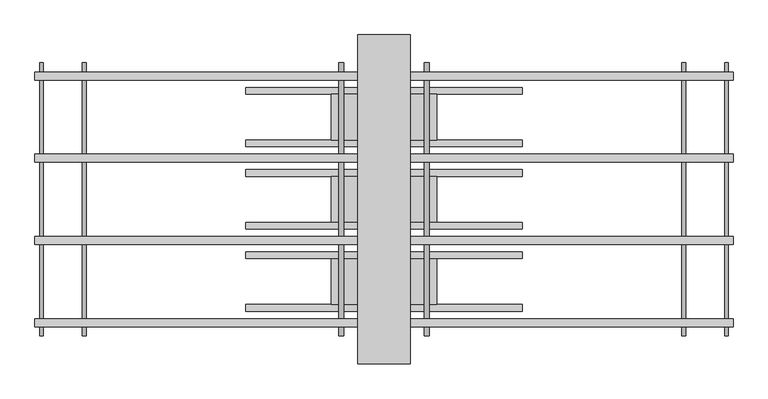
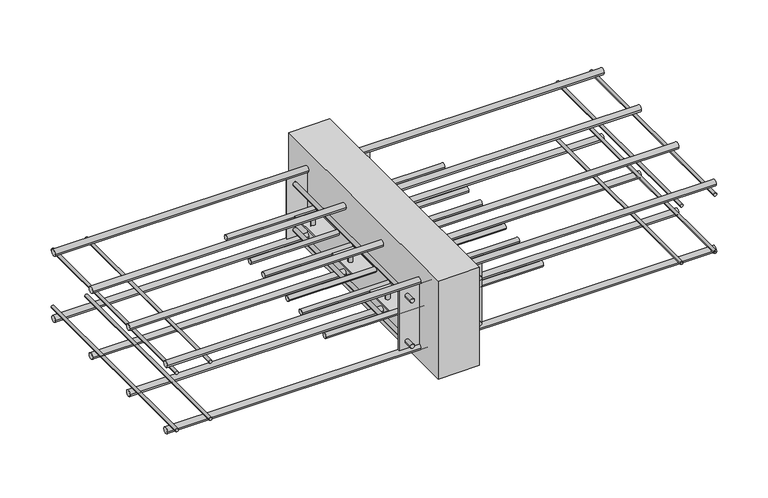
"""IFC4 building model written with IfcOpenShell, lengths in millimetres: fastener geometry, ACINOXplus_Typenreihe_M : MC+ S3."""

from ifc_helpers import new_model, si_unit, point, frame, frame_2d, origin, place, context, project, spatial, polyline, circle_curve, trimmed, segment, composite_curve, outline, extrude, source, transform, mapped, element, save
from ifc_brep_helpers import plane_surface, cylinder_surface, advanced_brep


def fastener_2e8eba31(model_context):
    return source(origin(), model_context, "Body", "SolidModel", [
        extrude(outline(composite_curve([segment(trimmed(circle_curve(frame_2d((-40.0, -103.5)), 5.0), [point((-45.0, -103.5))], [point((-35.0, -103.5))], False, "CARTESIAN"), True, "CONTINUOUS"), segment(trimmed(circle_curve(frame_2d((-40.0, -103.5)), 5.0), [point((-35.0, -103.5))], [point((-45.0, -103.5))], False, "CARTESIAN"), True, "CONTINUOUS")], self_intersect=False)), frame((-210.0, 0.0, 0.0), z_axis=(1.0, 0.0, 0.0), x_axis=(0.0, 1.0, 0.0)), (0.0, 0.0, 1.0), 420.0),
        extrude(outline(composite_curve([segment(trimmed(circle_curve(frame_2d((40.0, -103.5)), 5.0), [point((35.0, -103.5))], [point((45.0, -103.5))], False, "CARTESIAN"), True, "CONTINUOUS"), segment(trimmed(circle_curve(frame_2d((40.0, -103.5)), 5.0), [point((45.0, -103.5))], [point((35.0, -103.5))], False, "CARTESIAN"), True, "CONTINUOUS")], self_intersect=False)), frame((-210.0, 0.0, 0.0), z_axis=(1.0, 0.0, 0.0), x_axis=(0.0, 1.0, 0.0)), (0.0, 0.0, 1.0), 420.0),
        advanced_brep(
        [(-69.0, 0.0, -88.5), (-61.0, 0.0, -88.5), (61.0, 0.0, -88.5), (69.0, 0.0, -88.5), (-69.0, 0.0, -118.5), (-61.0, 0.0, -118.5), (61.0, 0.0, -118.5), (69.0, 0.0, -118.5), (-69.0, 0.0, -102.0), (-61.0, 0.0, -102.0), (-61.0, 0.0, -105.0), (-69.0, 0.0, -105.0), (61.0, 0.0, -102.0), (69.0, 0.0, -102.0), (69.0, 0.0, -105.0), (61.0, 0.0, -105.0), (80.0, 35.0, -102.0), (-80.0, 35.0, -102.0), (-80.0, -35.0, -102.0), (80.0, -35.0, -102.0), (80.0, 35.0, -105.0), (80.0, -35.0, -105.0), (-80.0, -35.0, -105.0), (-80.0, 35.0, -105.0)],
        [
            (0, 1, circle_curve(frame((-65.0, 0.0, -88.5), z_axis=(0.0, 0.0, 1.0), x_axis=(1.0, 0.0, 0.0)), 4.0)),
            (1, 0, circle_curve(frame((-65.0, 0.0, -88.5), z_axis=(0.0, 0.0, 1.0), x_axis=(1.0, 0.0, 0.0)), 4.0)),
            (2, 3, circle_curve(frame((65.0, 0.0, -88.5), z_axis=(0.0, 0.0, 1.0), x_axis=(1.0, 0.0, 0.0)), 4.0)),
            (3, 2, circle_curve(frame((65.0, 0.0, -88.5), z_axis=(0.0, 0.0, 1.0), x_axis=(1.0, 0.0, 0.0)), 4.0)),
            (4, 5, circle_curve(frame((-65.0, 0.0, -118.5), z_axis=(0.0, 0.0, -1.0), x_axis=(1.0, 0.0, 0.0)), 4.0)),
            (5, 4, circle_curve(frame((-65.0, 0.0, -118.5), z_axis=(0.0, 0.0, -1.0), x_axis=(1.0, 0.0, 0.0)), 4.0)),
            (6, 7, circle_curve(frame((65.0, 0.0, -118.5), z_axis=(0.0, 0.0, -1.0), x_axis=(1.0, 0.0, 0.0)), 4.0)),
            (7, 6, circle_curve(frame((65.0, 0.0, -118.5), z_axis=(0.0, 0.0, -1.0), x_axis=(1.0, 0.0, 0.0)), 4.0)),
            (0, 8),
            (8, 9, circle_curve(frame((-65.0, 0.0, -102.0), z_axis=(0.0, 0.0, 1.0), x_axis=(1.0, 0.0, 0.0)), 4.0)),
            (9, 1),
            (5, 10),
            (10, 11, circle_curve(frame((-65.0, 0.0, -105.0), z_axis=(0.0, 0.0, -1.0), x_axis=(1.0, 0.0, 0.0)), 4.0)),
            (11, 4),
            (9, 8, circle_curve(frame((-65.0, 0.0, -102.0), z_axis=(0.0, 0.0, 1.0), x_axis=(1.0, 0.0, 0.0)), 4.0)),
            (11, 10, circle_curve(frame((-65.0, 0.0, -105.0), z_axis=(0.0, 0.0, -1.0), x_axis=(1.0, 0.0, 0.0)), 4.0)),
            (2, 12),
            (12, 13, circle_curve(frame((65.0, 0.0, -102.0), z_axis=(0.0, 0.0, 1.0), x_axis=(1.0, 0.0, 0.0)), 4.0)),
            (13, 3),
            (7, 14),
            (14, 15, circle_curve(frame((65.0, 0.0, -105.0), z_axis=(0.0, 0.0, -1.0), x_axis=(1.0, 0.0, 0.0)), 4.0)),
            (15, 6),
            (13, 12, circle_curve(frame((65.0, 0.0, -102.0), z_axis=(0.0, 0.0, 1.0), x_axis=(1.0, 0.0, 0.0)), 4.0)),
            (15, 14, circle_curve(frame((65.0, 0.0, -105.0), z_axis=(0.0, 0.0, -1.0), x_axis=(1.0, 0.0, 0.0)), 4.0)),
            (16, 17),
            (17, 18),
            (18, 19),
            (19, 16),
            (20, 21),
            (21, 22),
            (22, 23),
            (23, 20),
            (16, 20),
            (23, 17),
            (22, 18),
            (21, 19),
        ],
        [
            plane_surface(frame((-61.0, 0.0, -88.5), z_axis=(0.0, 0.0, 1.0), x_axis=(0.0, 1.0, 0.0))),
            plane_surface(frame((-61.0, 0.0, -118.5), z_axis=(0.0, 0.0, -1.0), x_axis=(0.0, -1.0, 0.0))),
            cylinder_surface(frame((-65.0, 0.0, -118.5), z_axis=(0.0, 0.0, 1.0), x_axis=(1.0, 0.0, 0.0)), 4.0),
            cylinder_surface(frame((65.0, 0.0, -103.5), z_axis=(0.0, 0.0, 1.0), x_axis=(1.0, 0.0, 0.0)), 4.0),
            plane_surface(frame((-80.0, 35.0, -102.0), z_axis=(0.0, 0.0, 1.0), x_axis=(-1.0, 0.0, 0.0))),
            plane_surface(frame((-80.0, 35.0, -105.0), z_axis=(0.0, 0.0, -1.0), x_axis=(1.0, 0.0, 0.0))),
            plane_surface(frame((80.0, 35.0, -102.0), z_axis=(0.0, 1.0, 0.0), x_axis=(0.0, 0.0, -1.0))),
            plane_surface(frame((-80.0, 35.0, -102.0), z_axis=(-1.0, 0.0, 0.0), x_axis=(0.0, 0.0, -1.0))),
            plane_surface(frame((-80.0, -35.0, -102.0), z_axis=(0.0, -1.0, 0.0), x_axis=(0.0, 0.0, -1.0))),
            plane_surface(frame((80.0, -35.0, -102.0), z_axis=(1.0, 0.0, 0.0), x_axis=(0.0, 0.0, -1.0))),
        ],
        [
            (0, [[1, 2]]),
            (0, [[3, 4]]),
            (1, [[5, 6]]),
            (1, [[7, 8]]),
            (2, [[-1, 9, 10, 11]]),
            (2, [[-6, 12, 13, 14]]),
            (2, [[-2, -11, 15, -9]]),
            (2, [[-5, -14, 16, -12]]),
            (3, [[-3, 17, 18, 19]]),
            (3, [[-8, 20, 21, 22]]),
            (3, [[-4, -19, 23, -17]]),
            (3, [[-7, -22, 24, -20]]),
            (4, [[25, 26, 27, 28], [-10, -15], [-18, -23]]),
            (5, [[29, 30, 31, 32], [-13, -16], [-21, -24]]),
            (6, [[-25, 33, -32, 34]]),
            (7, [[-26, -34, -31, 35]]),
            (8, [[-27, -35, -30, 36]]),
            (9, [[-28, -36, -29, -33]]),
        ],
    ),
        extrude(outline(composite_curve([segment(trimmed(circle_curve(frame_2d((-165.0, -103.5)), 5.0), [point((-170.0, -103.5))], [point((-160.0, -103.5))], False, "CARTESIAN"), True, "CONTINUOUS"), segment(trimmed(circle_curve(frame_2d((-165.0, -103.5)), 5.0), [point((-160.0, -103.5))], [point((-170.0, -103.5))], False, "CARTESIAN"), True, "CONTINUOUS")], self_intersect=False)), frame((-210.0, 0.0, 0.0), z_axis=(1.0, 0.0, 0.0), x_axis=(0.0, 1.0, 0.0)), (0.0, 0.0, 1.0), 420.0),
        extrude(outline(composite_curve([segment(trimmed(circle_curve(frame_2d((-85.0, -103.5)), 5.0), [point((-90.0, -103.5))], [point((-80.0, -103.5))], False, "CARTESIAN"), True, "CONTINUOUS"), segment(trimmed(circle_curve(frame_2d((-85.0, -103.5)), 5.0), [point((-80.0, -103.5))], [point((-90.0, -103.5))], False, "CARTESIAN"), True, "CONTINUOUS")], self_intersect=False)), frame((-210.0, 0.0, 0.0), z_axis=(1.0, 0.0, 0.0), x_axis=(0.0, 1.0, 0.0)), (0.0, 0.0, 1.0), 420.0),
        advanced_brep(
        [(-69.0, -125.0, -88.5), (-61.0, -125.0, -88.5), (61.0, -125.0, -88.5), (69.0, -125.0, -88.5), (-69.0, -125.0, -118.5), (-61.0, -125.0, -118.5), (61.0, -125.0, -118.5), (69.0, -125.0, -118.5), (-69.0, -125.0, -102.0), (-61.0, -125.0, -102.0), (-61.0, -125.0, -105.0), (-69.0, -125.0, -105.0), (61.0, -125.0, -102.0), (69.0, -125.0, -102.0), (69.0, -125.0, -105.0), (61.0, -125.0, -105.0), (80.0, -90.0, -102.0), (-80.0, -90.0, -102.0), (-80.0, -160.0, -102.0), (80.0, -160.0, -102.0), (80.0, -90.0, -105.0), (80.0, -160.0, -105.0), (-80.0, -160.0, -105.0), (-80.0, -90.0, -105.0)],
        [
            (0, 1, circle_curve(frame((-65.0, -125.0, -88.5), z_axis=(0.0, 0.0, 1.0), x_axis=(1.0, 0.0, 0.0)), 4.0)),
            (1, 0, circle_curve(frame((-65.0, -125.0, -88.5), z_axis=(0.0, 0.0, 1.0), x_axis=(1.0, 0.0, 0.0)), 4.0)),
            (2, 3, circle_curve(frame((65.0, -125.0, -88.5), z_axis=(0.0, 0.0, 1.0), x_axis=(1.0, 0.0, 0.0)), 4.0)),
            (3, 2, circle_curve(frame((65.0, -125.0, -88.5), z_axis=(0.0, 0.0, 1.0), x_axis=(1.0, 0.0, 0.0)), 4.0)),
            (4, 5, circle_curve(frame((-65.0, -125.0, -118.5), z_axis=(0.0, 0.0, -1.0), x_axis=(1.0, 0.0, 0.0)), 4.0)),
            (5, 4, circle_curve(frame((-65.0, -125.0, -118.5), z_axis=(0.0, 0.0, -1.0), x_axis=(1.0, 0.0, 0.0)), 4.0)),
            (6, 7, circle_curve(frame((65.0, -125.0, -118.5), z_axis=(0.0, 0.0, -1.0), x_axis=(1.0, 0.0, 0.0)), 4.0)),
            (7, 6, circle_curve(frame((65.0, -125.0, -118.5), z_axis=(0.0, 0.0, -1.0), x_axis=(1.0, 0.0, 0.0)), 4.0)),
            (0, 8),
            (8, 9, circle_curve(frame((-65.0, -125.0, -102.0), z_axis=(0.0, 0.0, 1.0), x_axis=(1.0, 0.0, 0.0)), 4.0)),
            (9, 1),
            (5, 10),
            (10, 11, circle_curve(frame((-65.0, -125.0, -105.0), z_axis=(0.0, 0.0, -1.0), x_axis=(1.0, 0.0, 0.0)), 4.0)),
            (11, 4),
            (9, 8, circle_curve(frame((-65.0, -125.0, -102.0), z_axis=(0.0, 0.0, 1.0), x_axis=(1.0, 0.0, 0.0)), 4.0)),
            (11, 10, circle_curve(frame((-65.0, -125.0, -105.0), z_axis=(0.0, 0.0, -1.0), x_axis=(1.0, 0.0, 0.0)), 4.0)),
            (2, 12),
            (12, 13, circle_curve(frame((65.0, -125.0, -102.0), z_axis=(0.0, 0.0, 1.0), x_axis=(1.0, 0.0, 0.0)), 4.0)),
            (13, 3),
            (7, 14),
            (14, 15, circle_curve(frame((65.0, -125.0, -105.0), z_axis=(0.0, 0.0, -1.0), x_axis=(1.0, 0.0, 0.0)), 4.0)),
            (15, 6),
            (13, 12, circle_curve(frame((65.0, -125.0, -102.0), z_axis=(0.0, 0.0, 1.0), x_axis=(1.0, 0.0, 0.0)), 4.0)),
            (15, 14, circle_curve(frame((65.0, -125.0, -105.0), z_axis=(0.0, 0.0, -1.0), x_axis=(1.0, 0.0, 0.0)), 4.0)),
            (16, 17),
            (17, 18),
            (18, 19),
            (19, 16),
            (20, 21),
            (21, 22),
            (22, 23),
            (23, 20),
            (16, 20),
            (23, 17),
            (22, 18),
            (21, 19),
        ],
        [
            plane_surface(frame((-61.0, -125.0, -88.5), z_axis=(0.0, 0.0, 1.0), x_axis=(0.0, 1.0, 0.0))),
            plane_surface(frame((-61.0, -125.0, -118.5), z_axis=(0.0, 0.0, -1.0), x_axis=(0.0, -1.0, 0.0))),
            cylinder_surface(frame((-65.0, -125.0, -118.5), z_axis=(0.0, 0.0, 1.0), x_axis=(1.0, 0.0, 0.0)), 4.0),
            cylinder_surface(frame((65.0, -125.0, -103.5), z_axis=(0.0, 0.0, 1.0), x_axis=(1.0, 0.0, 0.0)), 4.0),
            plane_surface(frame((-80.0, -90.0, -102.0), z_axis=(0.0, 0.0, 1.0), x_axis=(-1.0, 0.0, 0.0))),
            plane_surface(frame((-80.0, -90.0, -105.0), z_axis=(0.0, 0.0, -1.0), x_axis=(1.0, 0.0, 0.0))),
            plane_surface(frame((80.0, -90.0, -102.0), z_axis=(0.0, 1.0, 0.0), x_axis=(0.0, 0.0, -1.0))),
            plane_surface(frame((-80.0, -90.0, -102.0), z_axis=(-1.0, 0.0, 0.0), x_axis=(0.0, 0.0, -1.0))),
            plane_surface(frame((-80.0, -160.0, -102.0), z_axis=(0.0, -1.0, 0.0), x_axis=(0.0, 0.0, -1.0))),
            plane_surface(frame((80.0, -160.0, -102.0), z_axis=(1.0, 0.0, 0.0), x_axis=(0.0, 0.0, -1.0))),
        ],
        [
            (0, [[1, 2]]),
            (0, [[3, 4]]),
            (1, [[5, 6]]),
            (1, [[7, 8]]),
            (2, [[-1, 9, 10, 11]]),
            (2, [[-6, 12, 13, 14]]),
            (2, [[-2, -11, 15, -9]]),
            (2, [[-5, -14, 16, -12]]),
            (3, [[-3, 17, 18, 19]]),
            (3, [[-8, 20, 21, 22]]),
            (3, [[-4, -19, 23, -17]]),
            (3, [[-7, -22, 24, -20]]),
            (4, [[25, 26, 27, 28], [-10, -15], [-18, -23]]),
            (5, [[29, 30, 31, 32], [-13, -16], [-21, -24]]),
            (6, [[-25, 33, -32, 34]]),
            (7, [[-26, -34, -31, 35]]),
            (8, [[-27, -35, -30, 36]]),
            (9, [[-28, -36, -29, -33]]),
        ],
    ),
        extrude(outline(composite_curve([segment(trimmed(circle_curve(frame_2d((85.0, -103.5)), 5.0), [point((80.0, -103.5))], [point((90.0, -103.5))], False, "CARTESIAN"), True, "CONTINUOUS"), segment(trimmed(circle_curve(frame_2d((85.0, -103.5)), 5.0), [point((90.0, -103.5))], [point((80.0, -103.5))], False, "CARTESIAN"), True, "CONTINUOUS")], self_intersect=False)), frame((-210.0, 0.0, 0.0), z_axis=(1.0, 0.0, 0.0), x_axis=(0.0, 1.0, 0.0)), (0.0, 0.0, 1.0), 420.0),
        extrude(outline(composite_curve([segment(trimmed(circle_curve(frame_2d((165.0, -103.5)), 5.0), [point((160.0, -103.5))], [point((170.0, -103.5))], False, "CARTESIAN"), True, "CONTINUOUS"), segment(trimmed(circle_curve(frame_2d((165.0, -103.5)), 5.0), [point((170.0, -103.5))], [point((160.0, -103.5))], False, "CARTESIAN"), True, "CONTINUOUS")], self_intersect=False)), frame((-210.0, 0.0, 0.0), z_axis=(1.0, 0.0, 0.0), x_axis=(0.0, 1.0, 0.0)), (0.0, 0.0, 1.0), 420.0),
        advanced_brep(
        [(-69.0, 125.0, -88.5), (-61.0, 125.0, -88.5), (61.0, 125.0, -88.5), (69.0, 125.0, -88.5), (-69.0, 125.0, -118.5), (-61.0, 125.0, -118.5), (61.0, 125.0, -118.5), (69.0, 125.0, -118.5), (-69.0, 125.0, -102.0), (-61.0, 125.0, -102.0), (-61.0, 125.0, -105.0), (-69.0, 125.0, -105.0), (61.0, 125.0, -102.0), (69.0, 125.0, -102.0), (69.0, 125.0, -105.0), (61.0, 125.0, -105.0), (80.0, 160.0, -102.0), (-80.0, 160.0, -102.0), (-80.0, 90.0, -102.0), (80.0, 90.0, -102.0), (80.0, 160.0, -105.0), (80.0, 90.0, -105.0), (-80.0, 90.0, -105.0), (-80.0, 160.0, -105.0)],
        [
            (0, 1, circle_curve(frame((-65.0, 125.0, -88.5), z_axis=(0.0, 0.0, 1.0), x_axis=(1.0, 0.0, 0.0)), 4.0)),
            (1, 0, circle_curve(frame((-65.0, 125.0, -88.5), z_axis=(0.0, 0.0, 1.0), x_axis=(1.0, 0.0, 0.0)), 4.0)),
            (2, 3, circle_curve(frame((65.0, 125.0, -88.5), z_axis=(0.0, 0.0, 1.0), x_axis=(1.0, 0.0, 0.0)), 4.0)),
            (3, 2, circle_curve(frame((65.0, 125.0, -88.5), z_axis=(0.0, 0.0, 1.0), x_axis=(1.0, 0.0, 0.0)), 4.0)),
            (4, 5, circle_curve(frame((-65.0, 125.0, -118.5), z_axis=(0.0, 0.0, -1.0), x_axis=(1.0, 0.0, 0.0)), 4.0)),
            (5, 4, circle_curve(frame((-65.0, 125.0, -118.5), z_axis=(0.0, 0.0, -1.0), x_axis=(1.0, 0.0, 0.0)), 4.0)),
            (6, 7, circle_curve(frame((65.0, 125.0, -118.5), z_axis=(0.0, 0.0, -1.0), x_axis=(1.0, 0.0, 0.0)), 4.0)),
            (7, 6, circle_curve(frame((65.0, 125.0, -118.5), z_axis=(0.0, 0.0, -1.0), x_axis=(1.0, 0.0, 0.0)), 4.0)),
            (0, 8),
            (8, 9, circle_curve(frame((-65.0, 125.0, -102.0), z_axis=(0.0, 0.0, 1.0), x_axis=(1.0, 0.0, 0.0)), 4.0)),
            (9, 1),
            (5, 10),
            (10, 11, circle_curve(frame((-65.0, 125.0, -105.0), z_axis=(0.0, 0.0, -1.0), x_axis=(1.0, 0.0, 0.0)), 4.0)),
            (11, 4),
            (9, 8, circle_curve(frame((-65.0, 125.0, -102.0), z_axis=(0.0, 0.0, 1.0), x_axis=(1.0, 0.0, 0.0)), 4.0)),
            (11, 10, circle_curve(frame((-65.0, 125.0, -105.0), z_axis=(0.0, 0.0, -1.0), x_axis=(1.0, 0.0, 0.0)), 4.0)),
            (2, 12),
            (12, 13, circle_curve(frame((65.0, 125.0, -102.0), z_axis=(0.0, 0.0, 1.0), x_axis=(1.0, 0.0, 0.0)), 4.0)),
            (13, 3),
            (7, 14),
            (14, 15, circle_curve(frame((65.0, 125.0, -105.0), z_axis=(0.0, 0.0, -1.0), x_axis=(1.0, 0.0, 0.0)), 4.0)),
            (15, 6),
            (13, 12, circle_curve(frame((65.0, 125.0, -102.0), z_axis=(0.0, 0.0, 1.0), x_axis=(1.0, 0.0, 0.0)), 4.0)),
            (15, 14, circle_curve(frame((65.0, 125.0, -105.0), z_axis=(0.0, 0.0, -1.0), x_axis=(1.0, 0.0, 0.0)), 4.0)),
            (16, 17),
            (17, 18),
            (18, 19),
            (19, 16),
            (20, 21),
            (21, 22),
            (22, 23),
            (23, 20),
            (16, 20),
            (23, 17),
            (22, 18),
            (21, 19),
        ],
        [
            plane_surface(frame((-61.0, 125.0, -88.5), z_axis=(0.0, 0.0, 1.0), x_axis=(0.0, 1.0, 0.0))),
            plane_surface(frame((-61.0, 125.0, -118.5), z_axis=(0.0, 0.0, -1.0), x_axis=(0.0, -1.0, 0.0))),
            cylinder_surface(frame((-65.0, 125.0, -118.5), z_axis=(0.0, 0.0, 1.0), x_axis=(1.0, 0.0, 0.0)), 4.0),
            cylinder_surface(frame((65.0, 125.0, -103.5), z_axis=(0.0, 0.0, 1.0), x_axis=(1.0, 0.0, 0.0)), 4.0),
            plane_surface(frame((-80.0, 160.0, -102.0), z_axis=(0.0, 0.0, 1.0), x_axis=(-1.0, 0.0, 0.0))),
            plane_surface(frame((-80.0, 160.0, -105.0), z_axis=(0.0, 0.0, -1.0), x_axis=(1.0, 0.0, 0.0))),
            plane_surface(frame((80.0, 160.0, -102.0), z_axis=(0.0, 1.0, 0.0), x_axis=(0.0, 0.0, -1.0))),
            plane_surface(frame((-80.0, 160.0, -102.0), z_axis=(-1.0, 0.0, 0.0), x_axis=(0.0, 0.0, -1.0))),
            plane_surface(frame((-80.0, 90.0, -102.0), z_axis=(0.0, -1.0, 0.0), x_axis=(0.0, 0.0, -1.0))),
            plane_surface(frame((80.0, 90.0, -102.0), z_axis=(1.0, 0.0, 0.0), x_axis=(0.0, 0.0, -1.0))),
        ],
        [
            (0, [[1, 2]]),
            (0, [[3, 4]]),
            (1, [[5, 6]]),
            (1, [[7, 8]]),
            (2, [[-1, 9, 10, 11]]),
            (2, [[-6, 12, 13, 14]]),
            (2, [[-2, -11, 15, -9]]),
            (2, [[-5, -14, 16, -12]]),
            (3, [[-3, 17, 18, 19]]),
            (3, [[-8, 20, 21, 22]]),
            (3, [[-4, -19, 23, -17]]),
            (3, [[-7, -22, 24, -20]]),
            (4, [[25, 26, 27, 28], [-10, -15], [-18, -23]]),
            (5, [[29, 30, 31, 32], [-13, -16], [-21, -24]]),
            (6, [[-25, 33, -32, 34]]),
            (7, [[-26, -34, -31, 35]]),
            (8, [[-27, -35, -30, 36]]),
            (9, [[-28, -36, -29, -33]]),
        ],
    ),
        extrude(outline(polyline([(40.0, 250.0), (40.0, -250.0), (-40.0, -250.0), (-40.0, 250.0), (40.0, 250.0)])), frame((0.0, 0.0, -200.0), z_axis=(0.0, 0.0, 1.0), x_axis=(1.0, 0.0, 0.0)), (0.0, 0.0, 1.0), 200.0),
        extrude(outline(polyline([(80.0, -186.0), (80.0, -189.0), (-80.0, -189.0), (-80.0, -186.0), (80.0, -186.0)])), frame((0.0, 0.0, -165.0), z_axis=(0.0, 0.0, 1.0), x_axis=(1.0, 0.0, 0.0)), (0.0, 0.0, 1.0), 123.0),
        extrude(outline(polyline([(80.0, 189.0), (80.0, 186.0), (-80.0, 186.0), (-80.0, 189.0), (80.0, 189.0)])), frame((0.0, 0.0, -165.0), z_axis=(0.0, 0.0, 1.0), x_axis=(1.0, 0.0, 0.0)), (0.0, 0.0, 1.0), 123.0),
        extrude(outline(composite_curve([segment(trimmed(circle_curve(frame_2d((-150.0, -65.0)), 4.0), [point((-150.0, -69.0))], [point((-150.0, -61.0))], False, "CARTESIAN"), True, "CONTINUOUS"), segment(trimmed(circle_curve(frame_2d((-150.0, -65.0)), 4.0), [point((-150.0, -61.0))], [point((-150.0, -69.0))], False, "CARTESIAN"), True, "CONTINUOUS")], self_intersect=False)), frame((0.0, 189.0, 0.0), z_axis=(0.0, 1.0, 0.0), x_axis=(0.0, 0.0, 1.0)), (0.0, 0.0, 1.0), 18.5),
        extrude(outline(composite_curve([segment(trimmed(circle_curve(frame_2d((-150.0, -65.0)), 4.0), [point((-150.0, -61.0))], [point((-150.0, -69.0))], False, "CARTESIAN"), True, "CONTINUOUS"), segment(trimmed(circle_curve(frame_2d((-150.0, -65.0)), 4.0), [point((-150.0, -69.0))], [point((-150.0, -61.0))], False, "CARTESIAN"), True, "CONTINUOUS")], self_intersect=False)), frame((0.0, -207.5, 0.0), z_axis=(0.0, 1.0, 0.0), x_axis=(0.0, 0.0, 1.0)), (0.0, 0.0, 1.0), 18.5),
        extrude(outline(composite_curve([segment(trimmed(circle_curve(frame_2d((-150.0, -65.0)), 4.0), [point((-150.0, -69.0))], [point((-150.0, -61.0))], False, "CARTESIAN"), True, "CONTINUOUS"), segment(trimmed(circle_curve(frame_2d((-150.0, -65.0)), 4.0), [point((-150.0, -61.0))], [point((-150.0, -69.0))], False, "CARTESIAN"), True, "CONTINUOUS")], self_intersect=False)), frame((0.0, -186.0, 0.0), z_axis=(0.0, 1.0, 0.0), x_axis=(0.0, 0.0, 1.0)), (0.0, 0.0, 1.0), 372.0),
        extrude(outline(composite_curve([segment(trimmed(circle_curve(frame_2d((-150.0, 65.0)), 4.0), [point((-150.0, 61.0))], [point((-150.0, 69.0))], False, "CARTESIAN"), True, "CONTINUOUS"), segment(trimmed(circle_curve(frame_2d((-150.0, 65.0)), 4.0), [point((-150.0, 69.0))], [point((-150.0, 61.0))], False, "CARTESIAN"), True, "CONTINUOUS")], self_intersect=False)), frame((0.0, 189.0, 0.0), z_axis=(0.0, 1.0, 0.0), x_axis=(0.0, 0.0, 1.0)), (0.0, 0.0, 1.0), 18.5),
        extrude(outline(composite_curve([segment(trimmed(circle_curve(frame_2d((-150.0, 65.0)), 4.0), [point((-150.0, 69.0))], [point((-150.0, 61.0))], False, "CARTESIAN"), True, "CONTINUOUS"), segment(trimmed(circle_curve(frame_2d((-150.0, 65.0)), 4.0), [point((-150.0, 61.0))], [point((-150.0, 69.0))], False, "CARTESIAN"), True, "CONTINUOUS")], self_intersect=False)), frame((0.0, -207.5, 0.0), z_axis=(0.0, 1.0, 0.0), x_axis=(0.0, 0.0, 1.0)), (0.0, 0.0, 1.0), 18.5),
        extrude(outline(composite_curve([segment(trimmed(circle_curve(frame_2d((-150.0, 65.0)), 4.0), [point((-150.0, 61.0))], [point((-150.0, 69.0))], False, "CARTESIAN"), True, "CONTINUOUS"), segment(trimmed(circle_curve(frame_2d((-150.0, 65.0)), 4.0), [point((-150.0, 69.0))], [point((-150.0, 61.0))], False, "CARTESIAN"), True, "CONTINUOUS")], self_intersect=False)), frame((0.0, -186.0, 0.0), z_axis=(0.0, 1.0, 0.0), x_axis=(0.0, 0.0, 1.0)), (0.0, 0.0, 1.0), 372.0),
        extrude(outline(composite_curve([segment(trimmed(circle_curve(frame_2d((-57.0, -65.0)), 4.0), [point((-57.0, -69.0))], [point((-57.0, -61.0))], False, "CARTESIAN"), True, "CONTINUOUS"), segment(trimmed(circle_curve(frame_2d((-57.0, -65.0)), 4.0), [point((-57.0, -61.0))], [point((-57.0, -69.0))], False, "CARTESIAN"), True, "CONTINUOUS")], self_intersect=False)), frame((0.0, 189.0, 0.0), z_axis=(0.0, 1.0, 0.0), x_axis=(0.0, 0.0, 1.0)), (0.0, 0.0, 1.0), 18.5),
        extrude(outline(composite_curve([segment(trimmed(circle_curve(frame_2d((-57.0, -65.0)), 4.0), [point((-57.0, -61.0))], [point((-57.0, -69.0))], False, "CARTESIAN"), True, "CONTINUOUS"), segment(trimmed(circle_curve(frame_2d((-57.0, -65.0)), 4.0), [point((-57.0, -69.0))], [point((-57.0, -61.0))], False, "CARTESIAN"), True, "CONTINUOUS")], self_intersect=False)), frame((0.0, -207.5, 0.0), z_axis=(0.0, 1.0, 0.0), x_axis=(0.0, 0.0, 1.0)), (0.0, 0.0, 1.0), 18.5),
        extrude(outline(composite_curve([segment(trimmed(circle_curve(frame_2d((-57.0, -65.0)), 4.0), [point((-57.0, -69.0))], [point((-57.0, -61.0))], False, "CARTESIAN"), True, "CONTINUOUS"), segment(trimmed(circle_curve(frame_2d((-57.0, -65.0)), 4.0), [point((-57.0, -61.0))], [point((-57.0, -69.0))], False, "CARTESIAN"), True, "CONTINUOUS")], self_intersect=False)), frame((0.0, -186.0, 0.0), z_axis=(0.0, 1.0, 0.0), x_axis=(0.0, 0.0, 1.0)), (0.0, 0.0, 1.0), 372.0),
        extrude(outline(composite_curve([segment(trimmed(circle_curve(frame_2d((-57.0, 65.0)), 4.0), [point((-57.0, 61.0))], [point((-57.0, 69.0))], False, "CARTESIAN"), True, "CONTINUOUS"), segment(trimmed(circle_curve(frame_2d((-57.0, 65.0)), 4.0), [point((-57.0, 69.0))], [point((-57.0, 61.0))], False, "CARTESIAN"), True, "CONTINUOUS")], self_intersect=False)), frame((0.0, 189.0, 0.0), z_axis=(0.0, 1.0, 0.0), x_axis=(0.0, 0.0, 1.0)), (0.0, 0.0, 1.0), 18.5),
        extrude(outline(composite_curve([segment(trimmed(circle_curve(frame_2d((-57.0, 65.0)), 4.0), [point((-57.0, 69.0))], [point((-57.0, 61.0))], False, "CARTESIAN"), True, "CONTINUOUS"), segment(trimmed(circle_curve(frame_2d((-57.0, 65.0)), 4.0), [point((-57.0, 61.0))], [point((-57.0, 69.0))], False, "CARTESIAN"), True, "CONTINUOUS")], self_intersect=False)), frame((0.0, -207.5, 0.0), z_axis=(0.0, 1.0, 0.0), x_axis=(0.0, 0.0, 1.0)), (0.0, 0.0, 1.0), 18.5),
        extrude(outline(composite_curve([segment(trimmed(circle_curve(frame_2d((-57.0, 65.0)), 4.0), [point((-57.0, 61.0))], [point((-57.0, 69.0))], False, "CARTESIAN"), True, "CONTINUOUS"), segment(trimmed(circle_curve(frame_2d((-57.0, 65.0)), 4.0), [point((-57.0, 69.0))], [point((-57.0, 61.0))], False, "CARTESIAN"), True, "CONTINUOUS")], self_intersect=False)), frame((0.0, -186.0, 0.0), z_axis=(0.0, 1.0, 0.0), x_axis=(0.0, 0.0, 1.0)), (0.0, 0.0, 1.0), 372.0),
        extrude(outline(composite_curve([segment(trimmed(circle_curve(frame_2d((62.5, -171.0)), 6.0), [point((56.5, -171.0))], [point((68.5, -171.0))], False, "CARTESIAN"), True, "CONTINUOUS"), segment(trimmed(circle_curve(frame_2d((62.5, -171.0)), 6.0), [point((68.5, -171.0))], [point((56.5, -171.0))], False, "CARTESIAN"), True, "CONTINUOUS")], self_intersect=False)), frame((-530.0, 0.0, 0.0), z_axis=(1.0, 0.0, 0.0), x_axis=(0.0, 1.0, 0.0)), (0.0, 0.0, 1.0), 1060.0),
        extrude(outline(composite_curve([segment(trimmed(circle_curve(frame_2d((187.5, -171.0)), 6.0), [point((181.5, -171.0))], [point((193.5, -171.0))], False, "CARTESIAN"), True, "CONTINUOUS"), segment(trimmed(circle_curve(frame_2d((187.5, -171.0)), 6.0), [point((193.5, -171.0))], [point((181.5, -171.0))], False, "CARTESIAN"), True, "CONTINUOUS")], self_intersect=False)), frame((-530.0, 0.0, 0.0), z_axis=(1.0, 0.0, 0.0), x_axis=(0.0, 1.0, 0.0)), (0.0, 0.0, 1.0), 1060.0),
        extrude(outline(composite_curve([segment(trimmed(circle_curve(frame_2d((-62.5, -171.0)), 6.0), [point((-68.5, -171.0))], [point((-56.5, -171.0))], False, "CARTESIAN"), True, "CONTINUOUS"), segment(trimmed(circle_curve(frame_2d((-62.5, -171.0)), 6.0), [point((-56.5, -171.0))], [point((-68.5, -171.0))], False, "CARTESIAN"), True, "CONTINUOUS")], self_intersect=False)), frame((-530.0, 0.0, 0.0), z_axis=(1.0, 0.0, 0.0), x_axis=(0.0, 1.0, 0.0)), (0.0, 0.0, 1.0), 1060.0),
        extrude(outline(composite_curve([segment(trimmed(circle_curve(frame_2d((-187.5, -171.0)), 6.0), [point((-193.5, -171.0))], [point((-181.5, -171.0))], False, "CARTESIAN"), True, "CONTINUOUS"), segment(trimmed(circle_curve(frame_2d((-187.5, -171.0)), 6.0), [point((-181.5, -171.0))], [point((-193.5, -171.0))], False, "CARTESIAN"), True, "CONTINUOUS")], self_intersect=False)), frame((-530.0, 0.0, 0.0), z_axis=(1.0, 0.0, 0.0), x_axis=(0.0, 1.0, 0.0)), (0.0, 0.0, 1.0), 1060.0),
        extrude(outline(composite_curve([segment(trimmed(circle_curve(frame_2d((62.5, -36.0)), 6.0), [point((56.5, -36.0))], [point((68.5, -36.0))], False, "CARTESIAN"), True, "CONTINUOUS"), segment(trimmed(circle_curve(frame_2d((62.5, -36.0)), 6.0), [point((68.5, -36.0))], [point((56.5, -36.0))], False, "CARTESIAN"), True, "CONTINUOUS")], self_intersect=False)), frame((-530.0, 0.0, 0.0), z_axis=(1.0, 0.0, 0.0), x_axis=(0.0, 1.0, 0.0)), (0.0, 0.0, 1.0), 1060.0),
        extrude(outline(composite_curve([segment(trimmed(circle_curve(frame_2d((187.5, -36.0)), 6.0), [point((181.5, -36.0))], [point((193.5, -36.0))], False, "CARTESIAN"), True, "CONTINUOUS"), segment(trimmed(circle_curve(frame_2d((187.5, -36.0)), 6.0), [point((193.5, -36.0))], [point((181.5, -36.0))], False, "CARTESIAN"), True, "CONTINUOUS")], self_intersect=False)), frame((-530.0, 0.0, 0.0), z_axis=(1.0, 0.0, 0.0), x_axis=(0.0, 1.0, 0.0)), (0.0, 0.0, 1.0), 1060.0),
        extrude(outline(composite_curve([segment(trimmed(circle_curve(frame_2d((-62.5, -36.0)), 6.0), [point((-68.5, -36.0))], [point((-56.5, -36.0))], False, "CARTESIAN"), True, "CONTINUOUS"), segment(trimmed(circle_curve(frame_2d((-62.5, -36.0)), 6.0), [point((-56.5, -36.0))], [point((-68.5, -36.0))], False, "CARTESIAN"), True, "CONTINUOUS")], self_intersect=False)), frame((-530.0, 0.0, 0.0), z_axis=(1.0, 0.0, 0.0), x_axis=(0.0, 1.0, 0.0)), (0.0, 0.0, 1.0), 1060.0),
        extrude(outline(composite_curve([segment(trimmed(circle_curve(frame_2d((-187.5, -36.0)), 6.0), [point((-193.5, -36.0))], [point((-181.5, -36.0))], False, "CARTESIAN"), True, "CONTINUOUS"), segment(trimmed(circle_curve(frame_2d((-187.5, -36.0)), 6.0), [point((-181.5, -36.0))], [point((-193.5, -36.0))], False, "CARTESIAN"), True, "CONTINUOUS")], self_intersect=False)), frame((-530.0, 0.0, 0.0), z_axis=(1.0, 0.0, 0.0), x_axis=(0.0, 1.0, 0.0)), (0.0, 0.0, 1.0), 1060.0),
        extrude(outline(composite_curve([segment(trimmed(circle_curve(frame_2d((-162.0, -520.0)), 3.0), [point((-162.0, -517.0))], [point((-162.0, -523.0))], False, "CARTESIAN"), True, "CONTINUOUS"), segment(trimmed(circle_curve(frame_2d((-162.0, -520.0)), 3.0), [point((-162.0, -523.0))], [point((-162.0, -517.0))], False, "CARTESIAN"), True, "CONTINUOUS")], self_intersect=False)), frame((0.0, -207.5, 0.0), z_axis=(0.0, 1.0, 0.0), x_axis=(0.0, 0.0, 1.0)), (0.0, 0.0, 1.0), 415.0),
        extrude(outline(composite_curve([segment(trimmed(circle_curve(frame_2d((-162.0, -455.0)), 3.0), [point((-162.0, -452.0))], [point((-162.0, -458.0))], False, "CARTESIAN"), True, "CONTINUOUS"), segment(trimmed(circle_curve(frame_2d((-162.0, -455.0)), 3.0), [point((-162.0, -458.0))], [point((-162.0, -452.0))], False, "CARTESIAN"), True, "CONTINUOUS")], self_intersect=False)), frame((0.0, -207.5, 0.0), z_axis=(0.0, 1.0, 0.0), x_axis=(0.0, 0.0, 1.0)), (0.0, 0.0, 1.0), 415.0),
        extrude(outline(composite_curve([segment(trimmed(circle_curve(frame_2d((-162.0, 455.0)), 3.0), [point((-162.0, 458.0))], [point((-162.0, 452.0))], False, "CARTESIAN"), True, "CONTINUOUS"), segment(trimmed(circle_curve(frame_2d((-162.0, 455.0)), 3.0), [point((-162.0, 452.0))], [point((-162.0, 458.0))], False, "CARTESIAN"), True, "CONTINUOUS")], self_intersect=False)), frame((0.0, -207.5, 0.0), z_axis=(0.0, 1.0, 0.0), x_axis=(0.0, 0.0, 1.0)), (0.0, 0.0, 1.0), 415.0),
        extrude(outline(composite_curve([segment(trimmed(circle_curve(frame_2d((-162.0, 520.0)), 3.0), [point((-162.0, 523.0))], [point((-162.0, 517.0))], False, "CARTESIAN"), True, "CONTINUOUS"), segment(trimmed(circle_curve(frame_2d((-162.0, 520.0)), 3.0), [point((-162.0, 517.0))], [point((-162.0, 523.0))], False, "CARTESIAN"), True, "CONTINUOUS")], self_intersect=False)), frame((0.0, -207.5, 0.0), z_axis=(0.0, 1.0, 0.0), x_axis=(0.0, 0.0, 1.0)), (0.0, 0.0, 1.0), 415.0),
        extrude(outline(composite_curve([segment(trimmed(circle_curve(frame_2d((-45.0, 455.0)), 3.0), [point((-45.0, 458.0))], [point((-45.0, 452.0))], False, "CARTESIAN"), True, "CONTINUOUS"), segment(trimmed(circle_curve(frame_2d((-45.0, 455.0)), 3.0), [point((-45.0, 452.0))], [point((-45.0, 458.0))], False, "CARTESIAN"), True, "CONTINUOUS")], self_intersect=False)), frame((0.0, -207.5, 0.0), z_axis=(0.0, 1.0, 0.0), x_axis=(0.0, 0.0, 1.0)), (0.0, 0.0, 1.0), 415.0),
        extrude(outline(composite_curve([segment(trimmed(circle_curve(frame_2d((-45.0, 520.0)), 3.0), [point((-45.0, 523.0))], [point((-45.0, 517.0))], False, "CARTESIAN"), True, "CONTINUOUS"), segment(trimmed(circle_curve(frame_2d((-45.0, 520.0)), 3.0), [point((-45.0, 517.0))], [point((-45.0, 523.0))], False, "CARTESIAN"), True, "CONTINUOUS")], self_intersect=False)), frame((0.0, -207.5, 0.0), z_axis=(0.0, 1.0, 0.0), x_axis=(0.0, 0.0, 1.0)), (0.0, 0.0, 1.0), 415.0),
        extrude(outline(composite_curve([segment(trimmed(circle_curve(frame_2d((-45.0, -520.0)), 3.0), [point((-45.0, -517.0))], [point((-45.0, -523.0))], False, "CARTESIAN"), True, "CONTINUOUS"), segment(trimmed(circle_curve(frame_2d((-45.0, -520.0)), 3.0), [point((-45.0, -523.0))], [point((-45.0, -517.0))], False, "CARTESIAN"), True, "CONTINUOUS")], self_intersect=False)), frame((0.0, -207.5, 0.0), z_axis=(0.0, 1.0, 0.0), x_axis=(0.0, 0.0, 1.0)), (0.0, 0.0, 1.0), 415.0),
        extrude(outline(composite_curve([segment(trimmed(circle_curve(frame_2d((-45.0, -455.0)), 3.0), [point((-45.0, -452.0))], [point((-45.0, -458.0))], False, "CARTESIAN"), True, "CONTINUOUS"), segment(trimmed(circle_curve(frame_2d((-45.0, -455.0)), 3.0), [point((-45.0, -458.0))], [point((-45.0, -452.0))], False, "CARTESIAN"), True, "CONTINUOUS")], self_intersect=False)), frame((0.0, -207.5, 0.0), z_axis=(0.0, 1.0, 0.0), x_axis=(0.0, 0.0, 1.0)), (0.0, 0.0, 1.0), 415.0),
    ])


if __name__ == "__main__":
    model = new_model("IFC4")
    model_context = context("Model", 3, world=origin())
    ifc_project = project(units=[si_unit("LENGTHUNIT", "METRE", prefix="MILLI")], contexts=[model_context])
    site = spatial("IfcSite", under=ifc_project)
    building = spatial("IfcBuilding", under=site)
    placement = place(None, origin())
    fastener_shape = fastener_2e8eba31(model_context)
    element("IfcFastener", 1, ObjectType="ACINOXplus_Typenreihe_M : MC+ S3", at=placement, inside=building, context=model_context, shape_type="MappedRepresentation", body=[
        mapped(fastener_shape, transform((0.0, 0.0, 0.0), x_axis=(1.0, 0.0, 0.0), y_axis=(0.0, 1.0, 0.0), z_axis=(0.0, 0.0, 1.0))),
    ])
    save(model, "model.ifc")
